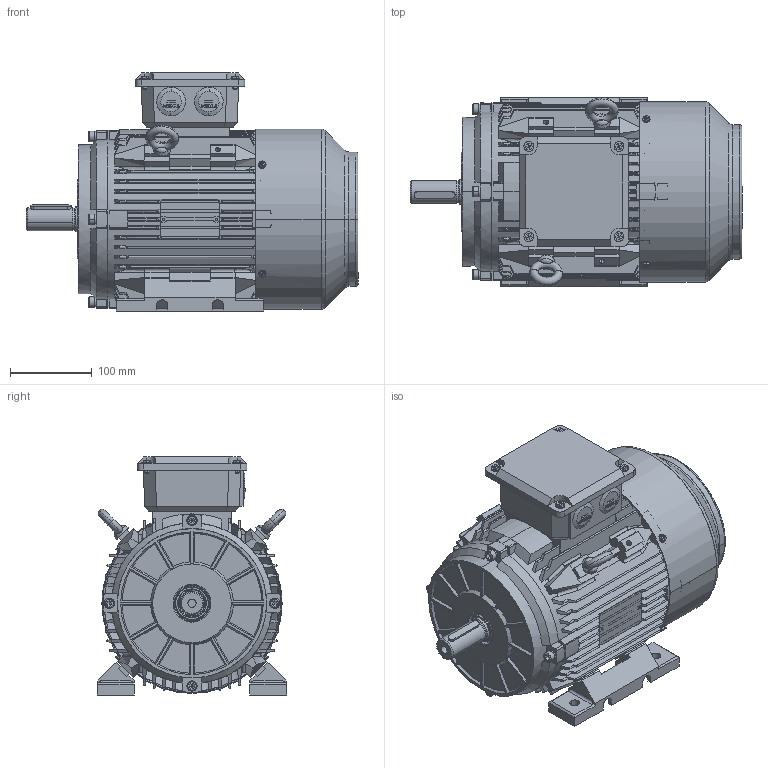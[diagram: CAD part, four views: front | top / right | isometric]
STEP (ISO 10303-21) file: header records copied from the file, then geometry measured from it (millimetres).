
FILE_DESCRIPTION (( 'STEP AP203' ), '1' );
FILE_NAME ('TC 112M B3外形图.STEP', '2013-12-12T08:03:55', ( '微软用户' ), ( '微软中国' ), 'SwSTEP 2.0', 'SolidWorks 2008', '' );
FILE_SCHEMA (( 'CONFIG_CONTROL_DESIGN' ));
Length unit declared in the file: millimetre
Products named in the file (19): TC 112 （波形垫在前）轴_默认; 6306_默认; 风罩_默认; TC112 底脚_默认; M8-30_默认; 油封30-44-7_默认; M5-12_默认; TC 112M B3俋倛芞; TC 112 B5 机座_默认; 112M转子_默认; TC 112 B3 端盖_默认; TC 112-132接线盒座_默认; TC 112-132接线盒盖_默认; TC 100-112风叶_默认; 8_默认; M25螺塞_默认; M4-6_默认; 吊环M8_默认; 平键8-50_默认
Assembly tree (35 placements, depth 3):
  TC 112M B3俋倛芞
    TC 112-132接线盒座_默认
    M4-6_默认  x4
    8_默认  x4
    平键8-50_默认
    M5-12_默认  x4
    TC 112 B3 端盖_默认  x2
    M8-30_默认  x4
    112M转子_默认
      6306_默认  x2
      TC 112 （波形垫在前）轴_默认
    吊环M8_默认  x2
    M25螺塞_默认  x2
    TC 112 B5 机座_默认
    TC 100-112风叶_默认
    油封30-44-7_默认
    TC112 底脚_默认  x2
    TC 112-132接线盒盖_默认
    风罩_默认
Bounding box: 405 x 230.66 x 290.47 mm (x, y, z)
Volume: 3101429.7 mm3; surface area: 1219171.2 mm2
Topology: 34 solids, 34 shells, 3682 faces, 10182 edges, 6662 vertices
Faces by surface type: plane 1848, cylinder 1291, cone 293, bspline 148, torus 102
Entity records: 109408 total; most frequent: CARTESIAN_POINT 29110, ORIENTED_EDGE 16810, DIRECTION 15621, EDGE_CURVE 8405, VERTEX_POINT 5523, AXIS2_PLACEMENT_3D 5338, VECTOR 4945, LINE 4945
